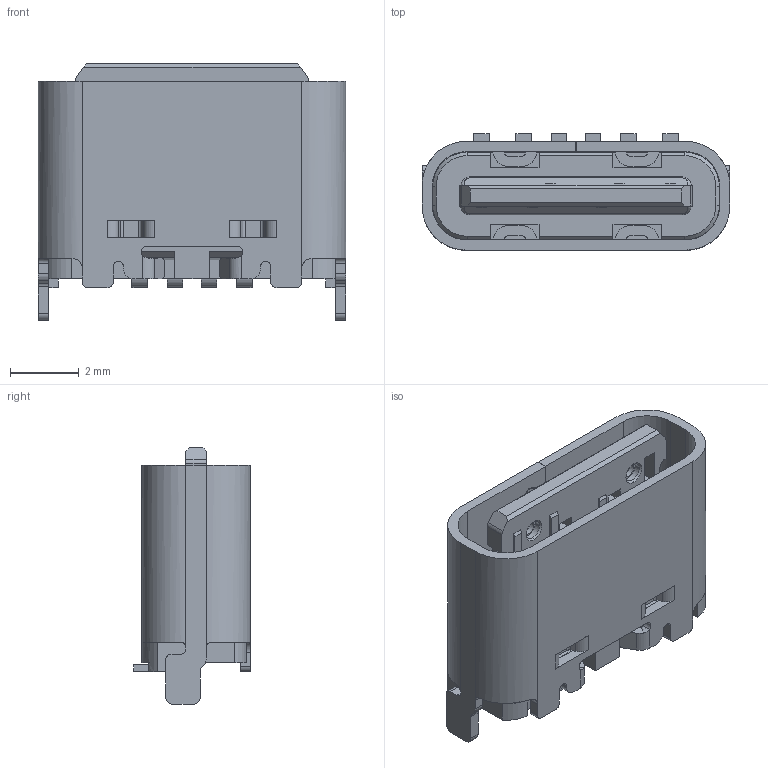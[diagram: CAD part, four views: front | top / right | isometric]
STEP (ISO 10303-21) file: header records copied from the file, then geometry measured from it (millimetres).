
FILE_DESCRIPTION (( 'STEP AP203' ), '1' );
FILE_NAME ('6P-蕾泂-6.0詢.STEP', '2022-01-11T09:54:43', ( 'Microsoft' ), ( 'Microsoft' ), 'SwSTEP 2.0', 'SolidWorks 2018', '' );
FILE_SCHEMA (( 'CONFIG_CONTROL_DESIGN' ));
Length unit declared in the file: millimetre
Products named in the file (2): 6P-蕾泂-6.0詢; 錨璃5^17004
Assembly tree (1 placements, depth 2):
  6P-蕾泂-6.0詢
    錨璃5^17004
Bounding box: 8.94 x 3.4 x 7.45 mm (x, y, z)
Volume: 88.3 mm3; surface area: 438 mm2
Topology: 1 solids, 1 shells, 600 faces, 1800 edges, 1178 vertices
Faces by surface type: plane 422, cylinder 160, cone 12, bspline 6
Entity records: 20592 total; most frequent: CARTESIAN_POINT 3878, ORIENTED_EDGE 3600, DIRECTION 3302, EDGE_CURVE 1800, VECTOR 1426, LINE 1426, VERTEX_POINT 1178, AXIS2_PLACEMENT_3D 938
